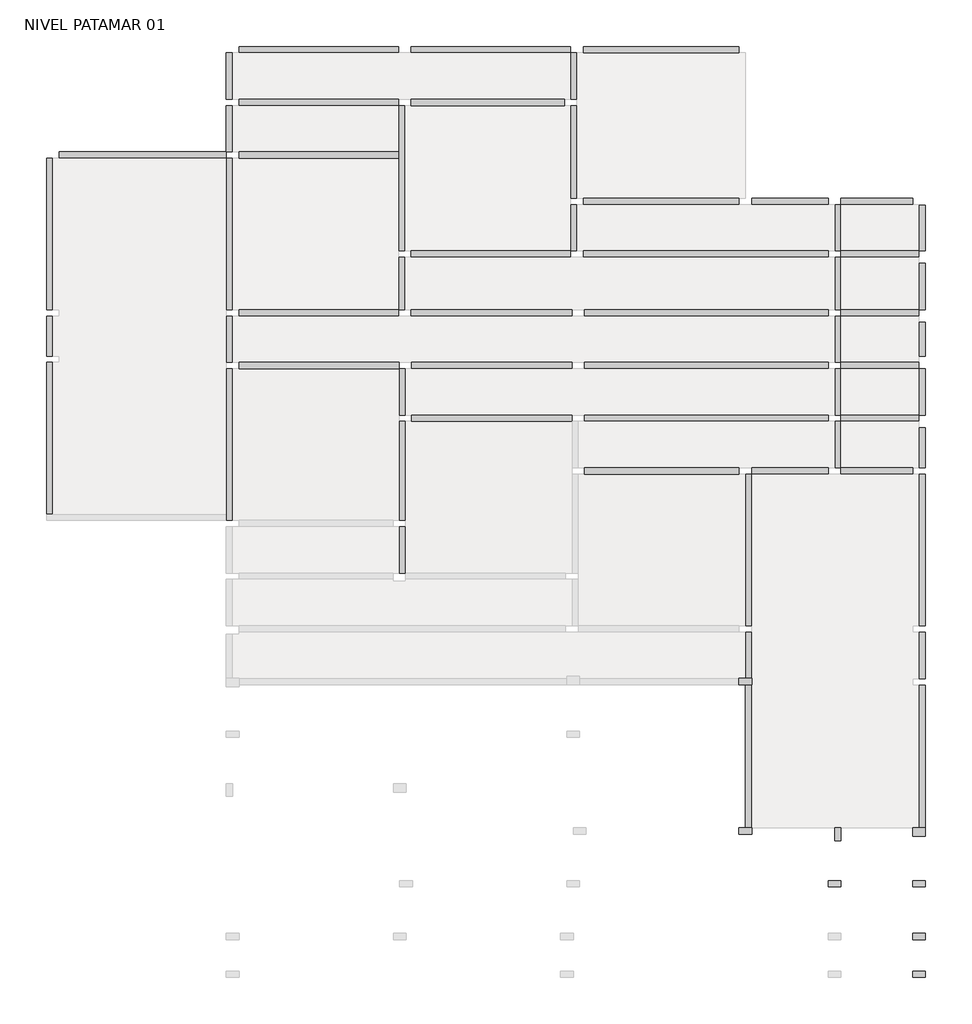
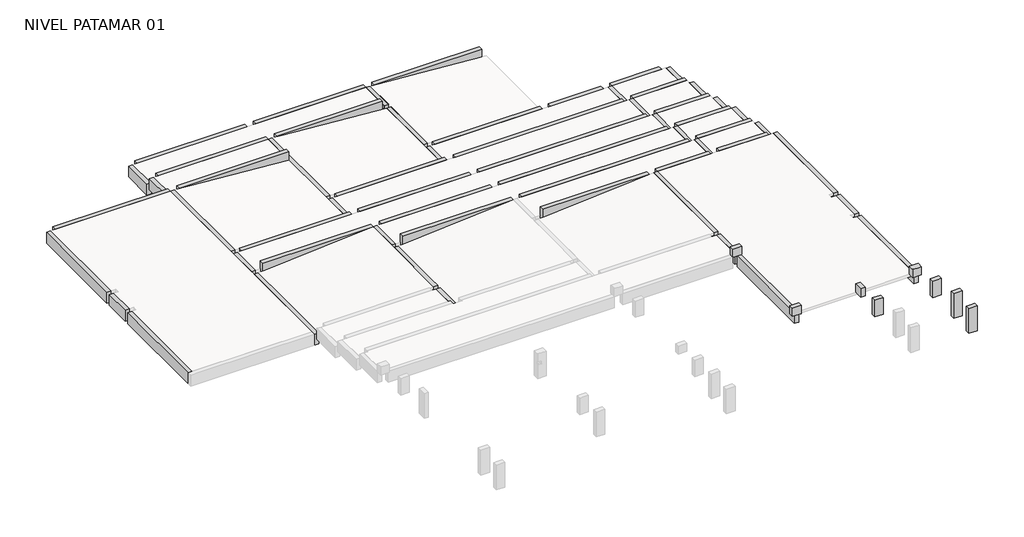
# One storey, part 2 of 2: 33 beams, 8 columns.
"""IFC4 building model written with IfcOpenShell, lengths in millimetres."""

from ifc_helpers import new_model, si_unit, frame, origin, place, context, project, spatial, polyline, outline, extrude, faceted_brep, element, save

model = new_model("IFC4")

# Units and contexts
model_context = context("Model", 3, world=origin())
ifc_project = project(units=[si_unit("LENGTHUNIT", "METRE", prefix="MILLI")], contexts=[model_context])

# Site, building, storey
site = spatial("IfcSite", under=ifc_project)
building = spatial("IfcBuilding", under=site)
storey = spatial("IfcBuildingStorey", under=building, Name="NIVEL PATAMAR 01", Elevation=2700.0)

# Beams
placement = place(None, origin())
element("IfcBeam", 1, ObjectType="TQS - Viga retangular : 15,0 x 40,0", at=placement, inside=storey, context=model_context, shape_type="Brep", body=[
    faceted_brep([(50150.0, -4080.0, 2700.0), (50150.0, -7480.0, 2700.0), (50300.0, -7480.0, 2700.0), (50300.0, -4080.0, 2700.0), (50300.0, -7480.0, 2600.0), (50300.0, -7480.0, 2300.0), (50300.0, -4080.0, 2300.0), (50150.0, -7480.0, 2300.0), (50150.0, -4080.0, 2300.0), (50150.0, -4080.0, 2599.7106811), (50150.0, -7480.0, 2599.7106811)], [[[0, 1, 2, 3]], [[3, 2, 4, 5, 6]], [[6, 5, 7, 8]], [[1, 0, 9, 8, 7, 10]], [[0, 3, 6, 8, 9]], [[1, 10, 7, 5, 4, 2]]]),
    faceted_brep([(50300.0, -3930.0, 2700.0), (50150.0, -3930.0, 2700.0), (50150.0, -3930.0, 2600.0), (50150.0, -3930.0, 2300.0), (50300.0, -3930.0, 2300.0), (50150.0, -2830.0, 2700.0), (50300.0, -2830.0, 2700.0), (50300.0, -2830.0, 2300.0), (50150.0, -2830.0, 2300.0), (50150.0, -2830.0, 2600.0)], [[[0, 1, 2, 3, 4]], [[5, 6, 7, 8, 9]], [[1, 0, 6, 5]], [[0, 4, 7, 6]], [[4, 3, 8, 7]], [[3, 2, 1, 5, 9, 8]]]),
    faceted_brep([(50150.0, -2680.0, 2700.0), (50300.0, -2680.0, 2700.0), (50300.0, 920.0, 2700.0), (50150.0, 920.0, 2700.0), (50300.0, -2680.0, 2300.0), (50300.0, 920.0, 2300.0), (50300.0, 920.0, 2600.0), (50150.0, -2680.0, 2300.0), (50150.0, 920.0, 2300.0), (50150.0, -2680.0, 2599.7148897), (50150.0, 920.0, 2599.7148897)], [[[0, 1, 2, 3]], [[1, 4, 5, 6, 2]], [[4, 7, 8, 5]], [[7, 9, 0, 3, 10, 8]], [[1, 0, 9, 7, 4]], [[3, 2, 6, 5, 8, 10]]]),
])
element("IfcBeam", 2, ObjectType="TQS - Viga retangular : 15,0 x 40,0", at=placement, inside=storey, context=model_context, shape_type="Brep", body=[
    faceted_brep([(52420.0, 1070.0, 2700.0), (52420.0, 920.0, 2700.0), (54120.0, 920.0, 2700.0), (54120.0, 1070.0, 2700.0), (52420.0, 920.0, 2300.0), (54120.0, 920.0, 2300.0), (52420.0, 1070.0, 2300.0), (54120.0, 1070.0, 2300.0), (52420.0, 1070.0, 2400.0)], [[[0, 1, 2, 3]], [[1, 4, 5, 2]], [[4, 6, 7, 5]], [[6, 8, 0, 3, 7]], [[1, 0, 8, 6, 4]], [[3, 2, 5, 7]]]),
    faceted_brep([(52120.0, 1070.0, 2700.0), (52120.0, 920.0, 2700.0), (52120.0, 920.0, 2300.0), (52120.0, 1070.0, 2300.0), (50300.0, 1070.0, 2700.0), (50300.0, 920.0, 2700.0), (50300.0, 920.0, 2600.0), (50300.0, 920.0, 2300.0), (50300.0, 1070.0, 2300.0)], [[[0, 1, 2, 3]], [[1, 0, 4, 5]], [[2, 1, 5, 6, 7]], [[3, 2, 7, 8]], [[0, 3, 8, 4]], [[5, 4, 8, 7, 6]]]),
    faceted_brep([(46330.0, 920.0, 2700.0), (46330.0, 1070.0, 2700.0), (46330.0, 1070.0, 2300.0), (46330.0, 920.0, 2300.0), (50000.0, 1070.0, 2700.0), (50000.0, 920.0, 2700.0), (50000.0, 920.0, 2300.0), (50000.0, 1070.0, 2300.0)], [[[0, 1, 2, 3]], [[4, 5, 6, 7]], [[1, 0, 5, 4]], [[0, 3, 6, 5]], [[3, 2, 7, 6]], [[2, 1, 4, 7]]]),
])
element("IfcBeam", 3, ObjectType="TQS - Viga retangular : 15,0 x 40,0", at=placement, inside=storey, context=model_context, shape_type="Brep", body=[
    faceted_brep([(54270.0, -4088.8177552, 2700.0), (54270.0, -7480.0, 2700.0), (54420.0, -7480.0, 2700.0), (54420.0, -4088.8177552, 2700.0), (54420.0, -7480.0, 2300.0), (54420.0, -4088.8177552, 2300.0), (54270.0, -7480.0, 2300.0), (54270.0, -4088.8177552, 2300.0), (54270.0, -4088.8177552, 2600.0), (54270.0, -7480.0, 2600.0)], [[[0, 1, 2, 3]], [[3, 2, 4, 5]], [[5, 4, 6, 7]], [[1, 0, 8, 7, 6, 9]], [[0, 3, 5, 7, 8]], [[1, 9, 6, 4, 2]]]),
    faceted_brep([(54420.0, -3938.8177552, 2700.0), (54270.0, -3938.8177552, 2700.0), (54270.0, -3938.8177552, 2600.0), (54270.0, -3938.8177552, 2300.0), (54420.0, -3938.8177552, 2300.0), (54270.0, -2830.0, 2700.0), (54420.0, -2830.0, 2700.0), (54420.0, -2830.0, 2300.0), (54270.0, -2830.0, 2300.0), (54270.0, -2830.0, 2600.0)], [[[0, 1, 2, 3, 4]], [[5, 6, 7, 8, 9]], [[1, 0, 6, 5]], [[0, 4, 7, 6]], [[4, 3, 8, 7]], [[3, 2, 1, 5, 9, 8]]]),
    faceted_brep([(54270.0, -2680.0, 2700.0), (54420.0, -2680.0, 2700.0), (54420.0, 920.0, 2700.0), (54270.0, 920.0, 2700.0), (54420.0, -2680.0, 2300.0), (54420.0, 920.0, 2300.0), (54270.0, -2680.0, 2300.0), (54270.0, 920.0, 2300.0), (54270.0, -2680.0, 2600.0), (54270.0, 920.0, 2600.0)], [[[0, 1, 2, 3]], [[1, 4, 5, 2]], [[4, 6, 7, 5]], [[6, 8, 0, 3, 9, 7]], [[1, 0, 8, 6, 4]], [[3, 2, 5, 7, 9]]]),
])
element("IfcBeam", 4, ObjectType="TQS - Viga retangular : 15,0 x 40,0", at=placement, inside=storey, context=model_context, shape_type="Brep", body=[
    faceted_brep([(46030.0, 2170.0, 2400.0), (46030.0, 2320.0, 2400.0), (42225.0, 2320.0, 2400.0), (42225.0, 2170.0, 2400.0), (46030.0, 2170.0, 2000.0), (46030.0, 2170.0, 2299.7127261), (42225.0, 2170.0, 2000.0), (46030.0, 2320.0, 2000.0), (42225.0, 2320.0, 2000.0)], [[[0, 1, 2, 3]], [[4, 5, 0, 3, 6]], [[7, 4, 6, 8]], [[1, 7, 8, 2]], [[1, 0, 5, 4, 7]], [[3, 2, 8, 6]]]),
    faceted_brep([(46330.0, 2170.0, 2400.0), (46330.0, 2320.0, 2400.0), (46330.0, 2320.0, 2000.0), (46330.0, 2170.0, 2000.0), (52120.0, 2170.0, 2400.0), (52120.0, 2320.0, 2400.0), (52120.0, 2170.0, 2000.0), (52120.0, 2320.0, 2000.0)], [[[0, 1, 2, 3]], [[1, 0, 4, 5]], [[0, 3, 6, 4]], [[3, 2, 7, 6]], [[2, 1, 5, 7]], [[5, 4, 6, 7]]]),
])
element("IfcBeam", 5, ObjectType="TQS - Viga retangular : 15,0 x 40,0", at=placement, inside=storey, context=model_context, shape_type="Brep", body=[
    faceted_brep([(41925.0, 2320.0, 2100.0), (42075.0, 2320.0, 2100.0), (42075.0, 3420.0, 2100.0), (41925.0, 3420.0, 2100.0), (42075.0, 2320.0, 2000.0), (42075.0, 2320.0, 1700.0), (42075.0, 3420.0, 1700.0), (42075.0, 3420.0, 2000.0), (41925.0, 2320.0, 1700.0), (41925.0, 3420.0, 1700.0), (41925.0, 3420.0, 1999.7127261)], [[[0, 1, 2, 3]], [[1, 4, 5, 6, 7, 2]], [[5, 8, 9, 6]], [[8, 0, 3, 10, 9]], [[1, 0, 8, 5, 4]], [[3, 2, 7, 6, 9, 10]]]),
    faceted_brep([(42075.0, -180.0, 2100.0), (41925.0, -180.0, 2100.0), (41925.0, -180.0, 1999.7127261), (41925.0, -180.0, 1700.0), (42075.0, -180.0, 1700.0), (41925.0, 2170.0, 2100.0), (42075.0, 2170.0, 2100.0), (42075.0, 2170.0, 1999.7127261), (42075.0, 2170.0, 1700.0), (41925.0, 2170.0, 1700.0)], [[[0, 1, 2, 3, 4]], [[5, 6, 7, 8, 9]], [[1, 0, 6, 5]], [[0, 4, 8, 7, 6]], [[4, 3, 9, 8]], [[3, 2, 1, 5, 9]]]),
    faceted_brep([(41925.0, -330.0, 2100.0), (42075.0, -330.0, 2100.0), (42075.0, -330.0, 1700.0), (41925.0, -330.0, 1700.0), (41925.0, -330.0, 2000.0), (41925.0, -1430.0, 2100.0), (42075.0, -1430.0, 2100.0), (42075.0, -1430.0, 1999.7127261), (42075.0, -1430.0, 1700.0), (41925.0, -1430.0, 1700.0), (41925.0, -1430.0, 2000.0)], [[[0, 1, 2, 3, 4]], [[0, 5, 6, 1]], [[1, 6, 7, 8, 2]], [[2, 8, 9, 3]], [[5, 0, 4, 3, 9, 10]], [[5, 10, 9, 8, 7, 6]]]),
])
element("IfcBeam", 6, ObjectType="TQS - Viga retangular : 15,0 x 40,0", at=placement, inside=storey, context=model_context, shape_type="Brep", body=[
    faceted_brep([(37820.0, 4820.0, 1800.0), (37970.0, 4820.0, 1800.0), (37970.0, 8420.0, 1800.0), (37820.0, 8420.0, 1800.0), (37970.0, 4820.0, 1699.7105377), (37970.0, 4820.0, 1400.0), (37970.0, 8420.0, 1400.0), (37970.0, 8420.0, 1699.7105377), (37820.0, 4820.0, 1400.0), (37820.0, 8420.0, 1400.0), (37820.0, 8420.0, 1700.0)], [[[0, 1, 2, 3]], [[1, 4, 5, 6, 7, 2]], [[5, 8, 9, 6]], [[8, 0, 3, 10, 9]], [[1, 0, 8, 5, 4]], [[3, 2, 7, 6, 9, 10]]]),
    faceted_brep([(37970.0, 3570.0, 1800.0), (37820.0, 3570.0, 1800.0), (37820.0, 3570.0, 1400.0), (37970.0, 3570.0, 1400.0), (37970.0, 3570.0, 1700.0), (37820.0, 4670.0, 1800.0), (37970.0, 4670.0, 1800.0), (37970.0, 4670.0, 1700.0), (37970.0, 4670.0, 1400.0), (37820.0, 4670.0, 1400.0)], [[[0, 1, 2, 3, 4]], [[5, 6, 7, 8, 9]], [[1, 0, 6, 5]], [[0, 4, 3, 8, 7, 6]], [[3, 2, 9, 8]], [[2, 1, 5, 9]]]),
    faceted_brep([(37820.0, 3420.0, 1800.0), (37970.0, 3420.0, 1800.0), (37970.0, 3420.0, 1699.7127261), (37970.0, 3420.0, 1400.0), (37820.0, 3420.0, 1400.0), (37820.0, -30.0, 1800.0), (37820.0, -180.0, 1800.0), (37970.0, -180.0, 1800.0), (37970.0, -180.0, 1699.7127261), (37970.0, -180.0, 1400.0), (37820.0, -180.0, 1400.0), (37820.0, -30.0, 1400.0)], [[[0, 1, 2, 3, 4]], [[1, 0, 5, 6, 7]], [[3, 2, 1, 7, 8, 9]], [[4, 3, 9, 10, 11]], [[0, 4, 11, 10, 6, 5]], [[7, 6, 10, 9, 8]]]),
])
element("IfcBeam", 7, ObjectType="TQS - Viga retangular : 15,0 x 40,0", at=placement, inside=storey, context=model_context, shape_type="Brep", body=[
    faceted_brep([(33700.0, 8420.0, 1800.0), (33550.0, 8420.0, 1800.0), (33550.0, 4820.0, 1800.0), (33700.0, 4820.0, 1800.0), (33700.0, 8420.0, 1400.0), (33700.0, 8420.0, 1700.0), (33700.0, 4820.0, 1700.0), (33700.0, 4820.0, 1400.0), (33550.0, 8420.0, 1400.0), (33550.0, 4820.0, 1400.0)], [[[0, 1, 2, 3]], [[4, 5, 0, 3, 6, 7]], [[8, 4, 7, 9]], [[1, 8, 9, 2]], [[1, 0, 5, 4, 8]], [[3, 2, 9, 7, 6]]]),
    faceted_brep([(33550.0, 4670.0, 1800.0), (33700.0, 4670.0, 1800.0), (33700.0, 4670.0, 1700.0), (33700.0, 4670.0, 1400.0), (33550.0, 4670.0, 1400.0), (33550.0, 3720.0, 1800.0), (33700.0, 3720.0, 1800.0), (33700.0, 3720.0, 1700.0), (33700.0, 3720.0, 1400.0), (33550.0, 3720.0, 1400.0)], [[[0, 1, 2, 3, 4]], [[1, 0, 5, 6]], [[3, 2, 1, 6, 7, 8]], [[4, 3, 8, 9]], [[0, 4, 9, 5]], [[6, 5, 9, 8, 7]]]),
    faceted_brep([(33550.0, 3570.0, 1800.0), (33700.0, 3570.0, 1800.0), (33700.0, 3570.0, 1700.0), (33700.0, 3570.0, 1400.0), (33550.0, 3570.0, 1400.0), (33550.0, -30.0, 1800.0), (33700.0, -30.0, 1800.0), (33700.0, -30.0, 1700.0), (33700.0, -30.0, 1400.0), (33550.0, -30.0, 1400.0)], [[[0, 1, 2, 3, 4]], [[1, 0, 5, 6]], [[3, 2, 1, 6, 7, 8]], [[4, 3, 8, 9]], [[0, 4, 9, 5]], [[6, 5, 9, 8, 7]]]),
])
element("IfcBeam", 8, ObjectType="TQS - Viga retangular : 15,0 x 40,0", at=placement, inside=storey, context=model_context, shape_type="Brep", body=[
    faceted_brep([(41910.0, 8570.0, 1800.0), (41910.0, 8420.0, 1800.0), (41910.0, 8420.0, 1500.0), (41910.0, 8420.0, 1400.0), (41910.0, 8570.0, 1400.0), (41910.0, 8570.0, 1500.0), (38120.0, 8570.0, 1800.0), (38120.0, 8420.0, 1800.0), (38120.0, 8420.0, 1400.0), (38120.0, 8570.0, 1400.0)], [[[0, 1, 2, 3, 4, 5]], [[1, 0, 6, 7]], [[3, 2, 1, 7, 8]], [[4, 3, 8, 9]], [[0, 5, 4, 9, 6]], [[7, 6, 9, 8]]]),
    faceted_brep([(37820.0, 8570.0, 1800.0), (37820.0, 8420.0, 1800.0), (37820.0, 8420.0, 1700.0), (37820.0, 8420.0, 1400.0), (37820.0, 8570.0, 1400.0), (33850.0, 8570.0, 1800.0), (33850.0, 8420.0, 1800.0), (33850.0, 8420.0, 1400.0), (33850.0, 8570.0, 1400.0)], [[[0, 1, 2, 3, 4]], [[1, 0, 5, 6]], [[3, 2, 1, 6, 7]], [[4, 3, 7, 8]], [[0, 4, 8, 5]], [[6, 5, 8, 7]]]),
])
element("IfcBeam", 9, ObjectType="TQS - Viga retangular : 15,0 x 40,0", at=placement, inside=storey, context=model_context, shape_type="Brep", body=[
    faceted_brep([(41925.0, 3420.0, 2100.0), (41925.0, 3570.0, 2100.0), (38120.0, 3570.0, 2100.0), (38120.0, 3420.0, 2100.0), (41925.0, 3570.0, 1700.0), (38120.0, 3570.0, 1700.0), (41925.0, 3420.0, 1700.0), (38120.0, 3420.0, 1700.0), (41925.0, 3420.0, 1999.7127261)], [[[0, 1, 2, 3]], [[1, 4, 5, 2]], [[4, 6, 7, 5]], [[6, 8, 0, 3, 7]], [[1, 0, 8, 6, 4]], [[3, 2, 5, 7]]]),
    faceted_brep([(42225.0, 3420.0, 2100.0), (42225.0, 3570.0, 2100.0), (42225.0, 3570.0, 1700.0), (42225.0, 3420.0, 1700.0), (46030.0, 3420.0, 2100.0), (46030.0, 3570.0, 2100.0), (46030.0, 3570.0, 1700.0), (46030.0, 3420.0, 1700.0)], [[[0, 1, 2, 3]], [[1, 0, 4, 5]], [[2, 1, 5, 6]], [[3, 2, 6, 7]], [[0, 3, 7, 4]], [[5, 4, 7, 6]]]),
    faceted_brep([(52120.0, 3570.0, 2100.0), (52120.0, 3420.0, 2100.0), (52120.0, 3420.0, 1700.0), (52120.0, 3570.0, 1700.0), (46330.0, 3420.0, 2100.0), (46330.0, 3570.0, 2100.0), (46330.0, 3570.0, 1700.0), (46330.0, 3420.0, 1700.0)], [[[0, 1, 2, 3]], [[4, 5, 6, 7]], [[1, 0, 5, 4]], [[0, 3, 6, 5]], [[3, 2, 7, 6]], [[2, 1, 4, 7]]]),
])
element("IfcBeam", 10, ObjectType="TQS - Viga retangular : 15,0 x 40,0", at=placement, inside=storey, context=model_context, shape_type="Brep", body=[
    faceted_brep([(38120.0, 4820.0, 1800.0), (38120.0, 4670.0, 1800.0), (41910.0, 4670.0, 1800.0), (41910.0, 4820.0, 1800.0), (38120.0, 4670.0, 1400.0), (41910.0, 4670.0, 1400.0), (38120.0, 4820.0, 1400.0), (41910.0, 4820.0, 1400.0), (41910.0, 4820.0, 1500.0)], [[[0, 1, 2, 3]], [[1, 4, 5, 2]], [[4, 6, 7, 5]], [[6, 0, 3, 8, 7]], [[1, 0, 6, 4]], [[3, 2, 5, 7, 8]]]),
    faceted_brep([(42210.0, 4670.0, 1800.0), (42210.0, 4820.0, 1800.0), (42210.0, 4820.0, 1400.0), (42210.0, 4670.0, 1400.0), (46030.0, 4820.0, 1800.0), (46030.0, 4670.0, 1800.0), (46030.0, 4670.0, 1400.0), (46030.0, 4820.0, 1400.0)], [[[0, 1, 2, 3]], [[4, 5, 6, 7]], [[1, 0, 5, 4]], [[0, 3, 6, 5]], [[3, 2, 7, 6]], [[2, 1, 4, 7]]]),
    faceted_brep([(46330.0, 4820.0, 1800.0), (46330.0, 4670.0, 1800.0), (52120.0, 4670.0, 1800.0), (52120.0, 4820.0, 1800.0), (46330.0, 4670.0, 1400.0), (52120.0, 4670.0, 1400.0), (46330.0, 4820.0, 1400.0), (52120.0, 4820.0, 1400.0)], [[[0, 1, 2, 3]], [[1, 4, 5, 2]], [[4, 6, 7, 5]], [[6, 0, 3, 7]], [[1, 0, 6, 4]], [[3, 2, 5, 7]]]),
])
element("IfcBeam", 11, ObjectType="TQS - Viga retangular : 15,0 x 40,0", at=placement, inside=storey, context=model_context, shape_type="Brep", body=[
    faceted_brep([(52420.0, 4670.0, 1800.0), (52270.0, 4670.0, 1800.0), (52270.0, 3570.0, 1800.0), (52420.0, 3570.0, 1800.0), (52420.0, 4670.0, 1400.0), (52420.0, 4670.0, 1700.0), (52420.0, 3570.0, 1700.0), (52420.0, 3570.0, 1400.0), (52270.0, 4670.0, 1400.0), (52270.0, 3570.0, 1400.0), (52270.0, 4670.0, 1700.0), (52270.0, 3570.0, 1700.0)], [[[0, 1, 2, 3]], [[4, 5, 0, 3, 6, 7]], [[8, 4, 7, 9]], [[1, 10, 8, 9, 11, 2]], [[2, 11, 9, 7, 6, 3]], [[1, 0, 5, 4, 8, 10]]]),
])
element("IfcBeam", 12, ObjectType="TQS - Viga retangular : 15,0 x 40,0", at=placement, inside=storey, context=model_context, shape_type="Brep", body=[
    faceted_brep([(41910.0, 6220.0, 1500.0), (42060.0, 6220.0, 1500.0), (42060.0, 9670.0, 1500.0), (41910.0, 9670.0, 1500.0), (41910.0, 8570.0, 1500.0), (42060.0, 6220.0, 1399.7105377), (42060.0, 6220.0, 1100.0), (42060.0, 9670.0, 1100.0), (42060.0, 9670.0, 1399.7105377), (41910.0, 6220.0, 1100.0), (41910.0, 9670.0, 1100.0), (41910.0, 9670.0, 1400.0)], [[[0, 1, 2, 3, 4]], [[1, 5, 6, 7, 8, 2]], [[6, 9, 10, 7]], [[9, 0, 4, 3, 11, 10]], [[1, 0, 9, 6, 5]], [[3, 2, 8, 7, 10, 11]]]),
    faceted_brep([(41910.0, 6070.0, 1500.0), (42060.0, 6070.0, 1500.0), (42060.0, 6070.0, 1400.0), (42060.0, 6070.0, 1100.0), (41910.0, 6070.0, 1100.0), (41910.0, 4820.0, 1500.0), (42060.0, 4820.0, 1500.0), (42060.0, 4820.0, 1400.0), (42060.0, 4820.0, 1100.0), (41910.0, 4820.0, 1100.0), (41910.0, 4820.0, 1399.7105377)], [[[0, 1, 2, 3, 4]], [[0, 5, 6, 1]], [[1, 6, 7, 8, 3, 2]], [[3, 8, 9, 4]], [[5, 0, 4, 9, 10]], [[5, 10, 9, 8, 7, 6]]]),
])
element("IfcBeam", 13, ObjectType="TQS - Viga retangular : 15,0 x 40,0", at=placement, inside=storey, context=model_context, shape_type="Brep", body=[
    faceted_brep([(42210.0, 6220.0, 1500.0), (42210.0, 6070.0, 1500.0), (46000.0, 6070.0, 1500.0), (46000.0, 6220.0, 1500.0), (42210.0, 6070.0, 1100.0), (46000.0, 6070.0, 1100.0), (42210.0, 6220.0, 1100.0), (46000.0, 6220.0, 1100.0), (46000.0, 6220.0, 1200.0)], [[[0, 1, 2, 3]], [[1, 4, 5, 2]], [[4, 6, 7, 5]], [[6, 0, 3, 8, 7]], [[1, 0, 6, 4]], [[2, 5, 7, 8, 3]]]),
    faceted_brep([(46300.0, 6070.0, 1500.0), (46300.0, 6220.0, 1500.0), (46300.0, 6220.0, 1200.0), (46300.0, 6070.0, 1200.0), (52120.0, 6220.0, 1500.0), (52120.0, 6070.0, 1500.0), (52120.0, 6070.0, 1200.0), (52120.0, 6220.0, 1200.0)], [[[0, 1, 2, 3]], [[4, 5, 6, 7]], [[3, 2, 7, 6]], [[1, 0, 5, 4]], [[5, 0, 3, 6]], [[1, 4, 7, 2]]]),
])
element("IfcBeam", 14, ObjectType="TQS - Viga retangular : 15,0 x 40,0", at=placement, inside=storey, context=model_context, shape_type="Brep", body=[
    faceted_brep([(42210.0, 9820.0, 1500.0), (42210.0, 9670.0, 1500.0), (45850.0, 9670.0, 1500.0), (45850.0, 9820.0, 1500.0), (42210.0, 9670.0, 1100.0), (45850.0, 9670.0, 1100.0), (42210.0, 9820.0, 1100.0), (45850.0, 9820.0, 1100.0)], [[[0, 1, 2, 3]], [[1, 4, 5, 2]], [[4, 6, 7, 5]], [[6, 0, 3, 7]], [[1, 0, 6, 4]], [[3, 2, 5, 7]]]),
    faceted_brep([(38120.0, 9670.0, 1500.0), (38120.0, 9820.0, 1500.0), (38120.0, 9820.0, 1100.0), (38120.0, 9670.0, 1100.0), (41910.0, 9820.0, 1500.0), (41910.0, 9670.0, 1500.0), (41910.0, 9670.0, 1400.0), (41910.0, 9670.0, 1100.0), (41910.0, 9820.0, 1100.0)], [[[0, 1, 2, 3]], [[4, 5, 6, 7, 8]], [[1, 0, 5, 4]], [[0, 3, 7, 6, 5]], [[3, 2, 8, 7]], [[2, 1, 4, 8]]]),
])
element("IfcBeam", 15, ObjectType="TQS - Viga retangular : 15,0 x 40,0", at=placement, inside=storey, context=model_context, shape_type="Brep", body=[
    faceted_brep([(46000.0, 9820.0, 1200.0), (46150.0, 9820.0, 1200.0), (46150.0, 10920.0, 1200.0), (46000.0, 10920.0, 1200.0), (46150.0, 9820.0, 900.0), (46150.0, 9820.0, 800.0), (46150.0, 10920.0, 800.0), (46150.0, 10920.0, 1099.7191443), (46000.0, 9820.0, 800.0), (46000.0, 10920.0, 800.0), (46000.0, 9820.0, 1100.0), (46000.0, 10920.0, 1100.0), (46000.0, 10920.0, 900.0)], [[[0, 1, 2, 3]], [[1, 4, 5, 6, 7, 2]], [[5, 8, 9, 6]], [[8, 10, 0, 3, 11, 12, 9]], [[8, 5, 4, 1, 0, 10]], [[6, 9, 12, 11, 3, 2, 7]]]),
    faceted_brep([(46000.0, 6220.0, 800.0), (46150.0, 6220.0, 800.0), (46150.0, 6220.0, 1100.0), (46150.0, 6220.0, 1200.0), (46000.0, 6220.0, 1200.0), (46000.0, 6220.0, 1099.7105377), (46000.0, 6220.0, 900.0), (46150.0, 7320.0, 800.0), (46000.0, 7320.0, 800.0), (46000.0, 7320.0, 900.0), (46000.0, 7320.0, 1200.0), (46150.0, 7320.0, 1200.0), (46150.0, 7320.0, 1100.0)], [[[0, 1, 2, 3, 4, 5, 6]], [[7, 8, 9, 10, 11, 12]], [[1, 0, 8, 7]], [[4, 3, 11, 10]], [[3, 2, 1, 7, 12, 11]], [[0, 6, 5, 4, 10, 9, 8]]]),
    faceted_brep([(46150.0, 9670.0, 800.0), (46000.0, 9670.0, 800.0), (46000.0, 9670.0, 1099.7105377), (46000.0, 9670.0, 1200.0), (46150.0, 9670.0, 1200.0), (46150.0, 9670.0, 900.0), (46150.0, 7470.0, 800.0), (46000.0, 7470.0, 800.0), (46000.0, 7470.0, 1200.0), (46150.0, 7470.0, 1200.0), (46150.0, 7470.0, 1099.7191443), (46000.0, 7470.0, 900.0)], [[[0, 1, 2, 3, 4, 5]], [[1, 0, 6, 7]], [[4, 3, 8, 9]], [[0, 5, 4, 9, 10, 6]], [[3, 2, 1, 7, 11, 8]], [[7, 6, 10, 9, 8, 11]]]),
])
element("IfcBeam", 16, ObjectType="TQS - Viga retangular : 15,0 x 40,0", at=placement, inside=storey, context=model_context, shape_type="Brep", body=[
    faceted_brep([(38120.0, 11070.0, 1200.0), (38120.0, 10920.0, 1200.0), (41910.0, 10920.0, 1200.0), (41910.0, 11070.0, 1200.0), (38120.0, 10920.0, 900.0), (41910.0, 10920.0, 900.0), (41910.0, 11070.0, 900.0), (38120.0, 11070.0, 900.0)], [[[0, 1, 2, 3]], [[2, 1, 4, 5]], [[0, 3, 6, 7]], [[1, 0, 7, 4]], [[3, 2, 5, 6]], [[5, 4, 7, 6]]]),
    faceted_brep([(50000.0, 11070.0, 1200.0), (50000.0, 10920.0, 1200.0), (50000.0, 10920.0, 911.2499312), (50000.0, 10920.0, 900.0), (50000.0, 11070.0, 900.0), (46300.0, 10920.0, 1200.0), (46300.0, 11070.0, 1200.0), (46300.0, 11070.0, 900.0), (46300.0, 10920.0, 900.0)], [[[0, 1, 2, 3, 4]], [[5, 6, 7, 8]], [[1, 0, 6, 5]], [[1, 5, 8, 3, 2]], [[6, 0, 4, 7]], [[4, 3, 8, 7]]]),
    faceted_brep([(46000.0, 11070.0, 1200.0), (46000.0, 10920.0, 1200.0), (46000.0, 10920.0, 1100.0), (46000.0, 10920.0, 900.0), (46000.0, 11070.0, 900.0), (42210.0, 10920.0, 1200.0), (42210.0, 11070.0, 1200.0), (42210.0, 11070.0, 900.0), (42210.0, 10920.0, 900.0)], [[[0, 1, 2, 3, 4]], [[5, 6, 7, 8]], [[4, 3, 8, 7]], [[1, 0, 6, 5]], [[6, 0, 4, 7]], [[1, 5, 8, 3, 2]]]),
])
element("IfcBeam", 17, ObjectType="TQS - Viga retangular : 15,0 x 40,0", at=placement, inside=storey, context=model_context, shape_type="Brep", body=[
    faceted_brep([(46300.0, 7470.0, 1200.0), (46300.0, 7320.0, 1200.0), (50000.0, 7320.0, 1200.0), (50000.0, 7470.0, 1200.0), (46300.0, 7320.0, 900.0), (46300.0, 7320.0, 800.0), (50000.0, 7320.0, 800.0), (50000.0, 7320.0, 900.0), (46300.0, 7470.0, 800.0), (50000.0, 7470.0, 800.0), (46300.0, 7470.0, 900.0), (50000.0, 7470.0, 900.0)], [[[0, 1, 2, 3]], [[1, 4, 5, 6, 7, 2]], [[5, 8, 9, 6]], [[8, 10, 0, 3, 11, 9]], [[8, 5, 4, 1, 0, 10]], [[6, 9, 11, 3, 2, 7]]]),
    faceted_brep([(50300.0, 7320.0, 1200.0), (50300.0, 7470.0, 1200.0), (50300.0, 7470.0, 900.0), (50300.0, 7320.0, 900.0), (52120.0, 7320.0, 1200.0), (52120.0, 7470.0, 1200.0), (52120.0, 7320.0, 900.0), (52120.0, 7470.0, 900.0)], [[[0, 1, 2, 3]], [[1, 0, 4, 5]], [[4, 0, 3, 6]], [[1, 5, 7, 2]], [[5, 4, 6, 7]], [[3, 2, 7, 6]]]),
])
element("IfcBeam", 18, ObjectType="TQS - Viga retangular : 15,0 x 40,0", at=placement, inside=storey, context=model_context, shape_type="Brep", body=[
    faceted_brep([(52420.0, 2170.0, 2400.0), (52270.0, 2170.0, 2400.0), (52270.0, 1070.0, 2400.0), (52420.0, 1070.0, 2400.0), (52420.0, 2170.0, 2000.0), (52420.0, 2170.0, 2300.0), (52420.0, 1070.0, 2300.0), (52420.0, 1070.0, 2000.0), (52270.0, 2170.0, 2000.0), (52270.0, 1070.0, 2000.0), (52270.0, 2170.0, 2300.0), (52270.0, 1070.0, 2300.0)], [[[0, 1, 2, 3]], [[4, 5, 0, 3, 6, 7]], [[8, 4, 7, 9]], [[1, 10, 8, 9, 11, 2]], [[2, 11, 9, 7, 6, 3]], [[1, 0, 5, 4, 8, 10]]]),
])
element("IfcBeam", 19, ObjectType="TQS - Viga retangular : 15,0 x 40,0", at=placement, inside=storey, context=model_context, shape_type="Brep", body=[
    faceted_brep([(52270.0, 2320.0, 2100.0), (52420.0, 2320.0, 2100.0), (52420.0, 3420.0, 2100.0), (52270.0, 3420.0, 2100.0), (52270.0, 2320.0, 1700.0), (52270.0, 2320.0, 2000.0), (52270.0, 3420.0, 2000.0), (52270.0, 3420.0, 1700.0), (52420.0, 2320.0, 1700.0), (52420.0, 3420.0, 1700.0), (52420.0, 2320.0, 2000.0), (52420.0, 3420.0, 2000.0)], [[[0, 1, 2, 3]], [[4, 5, 0, 3, 6, 7]], [[8, 4, 7, 9]], [[1, 10, 8, 9, 11, 2]], [[1, 0, 5, 4, 8, 10]], [[2, 11, 9, 7, 6, 3]]]),
])
element("IfcBeam", 20, ObjectType="TQS - Viga retangular : 15,0 x 40,0", at=placement, inside=storey, context=model_context, shape_type="Brep", body=[
    faceted_brep([(52270.0, 4820.0, 1500.0), (52420.0, 4820.0, 1500.0), (52420.0, 6070.0, 1500.0), (52270.0, 6070.0, 1500.0), (52270.0, 4820.0, 1100.0), (52270.0, 4820.0, 1400.0), (52270.0, 6070.0, 1400.0), (52270.0, 6070.0, 1100.0), (52420.0, 4820.0, 1100.0), (52420.0, 6070.0, 1100.0), (52420.0, 4820.0, 1400.0), (52420.0, 6070.0, 1400.0)], [[[0, 1, 2, 3]], [[4, 5, 0, 3, 6, 7]], [[8, 4, 7, 9]], [[1, 10, 8, 9, 11, 2]], [[1, 0, 5, 4, 8, 10]], [[2, 11, 9, 7, 6, 3]]]),
])
element("IfcBeam", 21, ObjectType="TQS - Viga retangular : 15,0 x 40,0", at=placement, inside=storey, context=model_context, shape_type="Brep", body=[
    faceted_brep([(52270.0, 6220.0, 1200.0), (52420.0, 6220.0, 1200.0), (52420.0, 7320.0, 1200.0), (52270.0, 7320.0, 1200.0), (52270.0, 6220.0, 800.0), (52270.0, 6220.0, 1100.0), (52270.0, 7320.0, 1100.0), (52270.0, 7320.0, 800.0), (52420.0, 6220.0, 800.0), (52420.0, 7320.0, 800.0), (52420.0, 6220.0, 900.0), (52420.0, 7320.0, 900.0), (52420.0, 7320.0, 1100.0)], [[[0, 1, 2, 3]], [[4, 5, 0, 3, 6, 7]], [[8, 4, 7, 9]], [[1, 10, 8, 9, 11, 12, 2]], [[4, 8, 10, 1, 0, 5]], [[3, 2, 12, 11, 9, 7, 6]]]),
])
element("IfcBeam", 22, ObjectType="TQS - Viga retangular : 15,0 x 40,0", at=placement, inside=storey, context=model_context, shape_type="Brep", body=[
    faceted_brep([(37970.0, 9670.0, 1500.0), (37820.0, 9670.0, 1500.0), (37820.0, 8570.0, 1500.0), (37970.0, 8570.0, 1500.0), (37970.0, 9670.0, 1100.0), (37970.0, 9670.0, 1400.0), (37970.0, 8570.0, 1400.0), (37970.0, 8570.0, 1100.0), (37820.0, 9670.0, 1100.0), (37820.0, 8570.0, 1100.0)], [[[0, 1, 2, 3]], [[4, 5, 0, 3, 6, 7]], [[8, 4, 7, 9]], [[1, 8, 9, 2]], [[2, 9, 7, 6, 3]], [[1, 0, 5, 4, 8]]]),
])
element("IfcBeam", 23, ObjectType="TQS - Viga retangular : 15,0 x 40,0", at=placement, inside=storey, context=model_context, shape_type="Brep", body=[
    faceted_brep([(37820.0, 9820.0, 1200.0), (37970.0, 9820.0, 1200.0), (37970.0, 10920.0, 1200.0), (37820.0, 10920.0, 1200.0), (37970.0, 9820.0, 1100.0), (37970.0, 9820.0, 800.0), (37970.0, 10920.0, 800.0), (37970.0, 10920.0, 1100.0), (37820.0, 9820.0, 800.0), (37820.0, 10920.0, 800.0), (37820.0, 9820.0, 900.0), (37820.0, 10920.0, 900.0)], [[[0, 1, 2, 3]], [[1, 4, 5, 6, 7, 2]], [[5, 8, 9, 6]], [[8, 10, 0, 3, 11, 9]], [[8, 5, 4, 1, 0, 10]], [[6, 9, 11, 3, 2, 7]]]),
])
element("IfcBeam", 24, ObjectType="TQS - Viga retangular : 15,0 x 40,0", at=placement, inside=storey, context=model_context, shape_type="Brep", body=[
    faceted_brep([(54420.0, 2020.0, 2400.0), (54270.0, 2020.0, 2400.0), (54270.0, 1070.0, 2400.0), (54420.0, 1070.0, 2400.0), (54420.0, 2020.0, 2000.0), (54420.0, 1070.0, 2000.0), (54270.0, 2020.0, 2000.0), (54270.0, 1070.0, 2000.0), (54270.0, 1070.0, 2300.0)], [[[0, 1, 2, 3]], [[4, 0, 3, 5]], [[6, 4, 5, 7]], [[1, 6, 7, 8, 2]], [[2, 8, 7, 5, 3]], [[1, 0, 4, 6]]]),
])
element("IfcBeam", 25, ObjectType="TQS - Viga retangular : 15,0 x 40,0", at=placement, inside=storey, context=model_context, shape_type="Brep", body=[
    faceted_brep([(54420.0, 3420.0, 2100.0), (54270.0, 3420.0, 2100.0), (54270.0, 2320.0, 2100.0), (54420.0, 2320.0, 2100.0), (54420.0, 3420.0, 1700.0), (54420.0, 2320.0, 1700.0), (54270.0, 3420.0, 1700.0), (54270.0, 2320.0, 1700.0), (54270.0, 3420.0, 2000.0), (54270.0, 2320.0, 2000.0)], [[[0, 1, 2, 3]], [[4, 0, 3, 5]], [[6, 4, 5, 7]], [[1, 8, 6, 7, 9, 2]], [[2, 9, 7, 5, 3]], [[1, 0, 4, 6, 8]]]),
])
element("IfcBeam", 26, ObjectType="TQS - Viga retangular : 15,0 x 40,0", at=placement, inside=storey, context=model_context, shape_type="Brep", body=[
    faceted_brep([(54270.0, 3420.0, 2100.0), (54270.0, 3570.0, 2100.0), (52420.0, 3570.0, 2100.0), (52420.0, 3420.0, 2100.0), (54270.0, 3420.0, 1700.0), (54270.0, 3420.0, 2000.0), (52420.0, 3420.0, 2000.0), (52420.0, 3420.0, 1700.0), (54270.0, 3570.0, 1700.0), (52420.0, 3570.0, 1700.0), (54270.0, 3570.0, 1800.0), (52420.0, 3570.0, 1800.0)], [[[0, 1, 2, 3]], [[4, 5, 0, 3, 6, 7]], [[8, 4, 7, 9]], [[1, 10, 8, 9, 11, 2]], [[2, 11, 9, 7, 6, 3]], [[1, 0, 5, 4, 8, 10]]]),
])
element("IfcBeam", 27, ObjectType="TQS - Viga retangular : 15,0 x 40,0", at=placement, inside=storey, context=model_context, shape_type="Brep", body=[
    faceted_brep([(54270.0, 4670.0, 1800.0), (54270.0, 4820.0, 1800.0), (52420.0, 4820.0, 1800.0), (52420.0, 4670.0, 1800.0), (54270.0, 4670.0, 1400.0), (54270.0, 4670.0, 1700.0), (52420.0, 4670.0, 1700.0), (52420.0, 4670.0, 1400.0), (54270.0, 4820.0, 1400.0), (52420.0, 4820.0, 1400.0), (54270.0, 4820.0, 1500.0), (52420.0, 4820.0, 1500.0)], [[[0, 1, 2, 3]], [[4, 5, 0, 3, 6, 7]], [[8, 4, 7, 9]], [[1, 10, 8, 9, 11, 2]], [[2, 11, 9, 7, 6, 3]], [[1, 0, 5, 4, 8, 10]]]),
])
element("IfcBeam", 28, ObjectType="TQS - Viga retangular : 15,0 x 40,0", at=placement, inside=storey, context=model_context, shape_type="SweptSolid", body=[
    extrude(outline(polyline([(54270.0, 4520.0), (54420.0, 4520.0), (54420.0, 3720.0), (54270.0, 3720.0), (54270.0, 4520.0)])), frame((0.0, 0.0, 1400.0), z_axis=(0.0, 0.0, 1.0), x_axis=(1.0, 0.0, 0.0)), (0.0, 0.0, 1.0), 400.0),
])
element("IfcBeam", 29, ObjectType="TQS - Viga retangular : 15,0 x 40,0", at=placement, inside=storey, context=model_context, shape_type="Brep", body=[
    faceted_brep([(54270.0, 6220.0, 1500.0), (52420.0, 6220.0, 1500.0), (52420.0, 6070.0, 1500.0), (54270.0, 6070.0, 1500.0), (52420.0, 6070.0, 1400.0), (52420.0, 6070.0, 1200.0), (54270.0, 6070.0, 1200.0), (54270.0, 6070.0, 1400.0), (54270.0, 6220.0, 1200.0), (52420.0, 6220.0, 1200.0)], [[[0, 1, 2, 3]], [[3, 2, 4, 5, 6, 7]], [[1, 0, 8, 9]], [[2, 1, 9, 5, 4]], [[0, 3, 7, 6, 8]], [[6, 5, 9, 8]]]),
])
element("IfcBeam", 30, ObjectType="TQS - Viga retangular : 15,0 x 40,0", at=placement, inside=storey, context=model_context, shape_type="Brep", body=[
    faceted_brep([(54420.0, 5920.0, 1500.0), (54270.0, 5920.0, 1500.0), (54270.0, 4820.0, 1500.0), (54420.0, 4820.0, 1500.0), (54420.0, 5920.0, 1100.0), (54420.0, 4820.0, 1100.0), (54270.0, 5920.0, 1100.0), (54270.0, 4820.0, 1100.0), (54270.0, 4820.0, 1400.0)], [[[0, 1, 2, 3]], [[4, 0, 3, 5]], [[6, 4, 5, 7]], [[1, 6, 7, 8, 2]], [[2, 8, 7, 5, 3]], [[1, 0, 4, 6]]]),
])
element("IfcBeam", 31, ObjectType="TQS - Viga retangular : 15,0 x 40,0", at=placement, inside=storey, context=model_context, shape_type="Brep", body=[
    faceted_brep([(52420.0, 7470.0, 1200.0), (52420.0, 7320.0, 1200.0), (54120.0, 7320.0, 1200.0), (54120.0, 7470.0, 1200.0), (52420.0, 7320.0, 1100.0), (52420.0, 7320.0, 900.0), (54120.0, 7320.0, 900.0), (52420.0, 7470.0, 900.0), (54120.0, 7470.0, 900.0)], [[[0, 1, 2, 3]], [[1, 4, 5, 6, 2]], [[1, 0, 7, 5, 4]], [[3, 2, 6, 8]], [[7, 8, 6, 5]], [[7, 0, 3, 8]]]),
])
element("IfcBeam", 32, ObjectType="TQS - Viga retangular : 15,0 x 40,0", at=placement, inside=storey, context=model_context, shape_type="Brep", body=[
    faceted_brep([(54270.0, 7307.2999994, 1200.0), (54420.0, 7307.2999994, 1200.0), (54420.0, 7307.2999994, 800.0), (54270.0, 7307.2999994, 800.0), (54270.0, 6220.0, 1200.0), (54420.0, 6220.0, 1200.0), (54420.0, 6220.0, 900.0), (54420.0, 6220.0, 800.0), (54270.0, 6220.0, 800.0), (54270.0, 6220.0, 900.0)], [[[0, 1, 2, 3]], [[1, 0, 4, 5]], [[2, 1, 5, 6, 7]], [[3, 2, 7, 8]], [[0, 3, 8, 9, 4]], [[5, 4, 9, 8, 7, 6]]]),
])
element("IfcBeam", 33, ObjectType="TQS - Viga retangular : 15,0 x 40,0", at=placement, inside=storey, context=model_context, shape_type="Brep", body=[
    faceted_brep([(54270.0, 2170.0, 2400.0), (54270.0, 2320.0, 2400.0), (52420.0, 2320.0, 2400.0), (52420.0, 2170.0, 2400.0), (54270.0, 2170.0, 2000.0), (54270.0, 2170.0, 2300.0), (52420.0, 2170.0, 2300.0), (52420.0, 2170.0, 2000.0), (54270.0, 2320.0, 2000.0), (52420.0, 2320.0, 2000.0), (54270.0, 2320.0, 2100.0), (52420.0, 2320.0, 2100.0)], [[[0, 1, 2, 3]], [[4, 5, 0, 3, 6, 7]], [[8, 4, 7, 9]], [[1, 10, 8, 9, 11, 2]], [[2, 11, 9, 7, 6, 3]], [[1, 0, 5, 4, 8, 10]]]),
])

# Columns
element("IfcColumn", 34, ObjectType="TQS - Pilar retangular : 15,0x30,0", at=placement, inside=storey, context=model_context, shape_type="SweptSolid", body=[
    extrude(outline(polyline([(50300.0, -4080.0), (50000.0, -4080.0), (50000.0, -3930.0), (50300.0, -3930.0), (50300.0, -4080.0)])), frame((0.0, 0.0, 2700.0), z_axis=(0.0, 0.0, 1.0), x_axis=(1.0, 0.0, 0.0)), (0.0, 0.0, 1.0), 300.0),
])
element("IfcColumn", 35, ObjectType="TQS - Pilar retangular : 15,0x30,0", at=placement, inside=storey, context=model_context, shape_type="SweptSolid", body=[
    extrude(outline(polyline([(50300.0, -7630.0), (50000.0, -7630.0), (50000.0, -7480.0), (50300.0, -7480.0), (50300.0, -7630.0)])), frame((0.0, 0.0, 2700.0), z_axis=(0.0, 0.0, 1.0), x_axis=(1.0, 0.0, 0.0)), (0.0, 0.0, 1.0), 300.0),
])
element("IfcColumn", 36, ObjectType="TQS - Pilar retangular : 15,0x30,0", at=placement, inside=storey, context=model_context, shape_type="Brep", body=[
    faceted_brep([(52270.0, -7780.0, 2700.0), (52270.0, -7480.0, 2700.0), (52420.0, -7480.0, 2700.0), (52420.0, -7780.0, 2700.0), (52270.0, -7780.0, 3000.0), (52270.0, -7630.0, 3000.0), (52270.0, -7480.0, 3000.0), (52420.0, -7480.0, 3000.0), (52420.0, -7630.0, 3000.0), (52420.0, -7780.0, 3000.0)], [[[0, 1, 2, 3]], [[4, 5, 6, 1, 0]], [[6, 7, 2, 1]], [[7, 8, 9, 3, 2]], [[9, 4, 0, 3]], [[4, 9, 8, 7, 6, 5]]]),
])
element("IfcColumn", 37, ObjectType="TQS - Pilar retangular : 15,0x30,0", at=placement, inside=storey, context=model_context, shape_type="Brep", body=[
    faceted_brep([(52420.0, -8880.0, 2700.0), (52120.0, -8880.0, 2700.0), (52120.0, -8730.0, 2700.0), (52420.0, -8730.0, 2700.0), (52420.0, -8880.0, 3300.0), (52270.0, -8880.0, 3300.0), (52120.0, -8880.0, 3300.0), (52120.0, -8880.0, 2900.0), (52420.0, -8880.0, 2900.0), (52120.0, -8730.0, 3300.0), (52120.0, -8730.0, 2900.0), (52420.0, -8730.0, 3300.0), (52420.0, -8730.0, 3000.0), (52420.0, -8730.0, 2900.0)], [[[0, 1, 2, 3]], [[4, 5, 6, 7, 1, 0, 8]], [[6, 9, 10, 2, 1, 7]], [[9, 11, 12, 13, 3, 2, 10]], [[11, 4, 8, 0, 3, 13, 12]], [[4, 11, 9, 6, 5]]]),
])
element("IfcColumn", 38, ObjectType="TQS - Pilar retangular : 15,0x30,0", at=placement, inside=storey, context=model_context, shape_type="Brep", body=[
    faceted_brep([(54420.0, -10130.0, 2700.0), (54120.0, -10130.0, 2700.0), (54120.0, -9980.0, 2700.0), (54420.0, -9980.0, 2700.0), (54420.0, -10130.0, 3600.0), (54270.0, -10130.0, 3600.0), (54120.0, -10130.0, 3600.0), (54120.0, -10130.0, 3200.0), (54420.0, -10130.0, 3200.0), (54120.0, -9980.0, 3600.0), (54120.0, -9980.0, 3200.0), (54420.0, -9980.0, 3600.0), (54420.0, -9980.0, 3300.0), (54420.0, -9980.0, 2900.0)], [[[0, 1, 2, 3]], [[4, 5, 6, 7, 1, 0, 8]], [[6, 9, 10, 2, 1, 7]], [[9, 11, 12, 13, 3, 2, 10]], [[11, 4, 8, 0, 3, 13, 12]], [[4, 11, 9, 6, 5]]]),
])
element("IfcColumn", 39, ObjectType="TQS - Pilar retangular : 15,0x30,0", at=placement, inside=storey, context=model_context, shape_type="Brep", body=[
    faceted_brep([(54420.0, -11030.0, 2700.0), (54120.0, -11030.0, 2700.0), (54120.0, -10880.0, 2700.0), (54420.0, -10880.0, 2700.0), (54420.0, -11030.0, 3600.0), (54120.0, -11030.0, 3600.0), (54120.0, -11030.0, 3200.0), (54120.0, -10880.0, 3600.0), (54120.0, -10880.0, 3200.0), (54270.0, -10880.0, 3600.0), (54420.0, -10880.0, 3600.0), (54420.0, -10880.0, 3200.0)], [[[0, 1, 2, 3]], [[4, 5, 6, 1, 0]], [[5, 7, 8, 2, 1, 6]], [[7, 9, 10, 11, 3, 2, 8]], [[10, 4, 0, 3, 11]], [[4, 10, 9, 7, 5]]]),
])
element("IfcColumn", 40, ObjectType="TQS - Pilar retangular : 15,0x30,0", at=placement, inside=storey, context=model_context, shape_type="Brep", body=[
    faceted_brep([(54420.0, -8880.0, 2700.0), (54120.0, -8880.0, 2700.0), (54120.0, -8730.0, 2700.0), (54420.0, -8730.0, 2700.0), (54420.0, -8880.0, 3300.0), (54270.0, -8880.0, 3300.0), (54120.0, -8880.0, 3300.0), (54120.0, -8880.0, 2900.0), (54420.0, -8880.0, 2900.0), (54120.0, -8730.0, 3300.0), (54120.0, -8730.0, 2900.0), (54420.0, -8730.0, 3300.0), (54420.0, -8730.0, 3000.0)], [[[0, 1, 2, 3]], [[4, 5, 6, 7, 1, 0, 8]], [[6, 9, 10, 2, 1, 7]], [[9, 11, 12, 3, 2, 10]], [[11, 4, 8, 0, 3, 12]], [[4, 11, 9, 6, 5]]]),
])
element("IfcColumn", 41, ObjectType="TQS - Pilar retangular : 20,0x30,0", at=placement, inside=storey, context=model_context, shape_type="Brep", body=[
    faceted_brep([(54420.0, -7680.0, 2700.0), (54120.0, -7680.0, 2700.0), (54120.0, -7480.0, 2700.0), (54420.0, -7480.0, 2700.0), (54420.0, -7680.0, 3000.0), (54270.0, -7680.0, 3000.0), (54120.0, -7680.0, 3000.0), (54120.0, -7680.0, 2900.0), (54120.0, -7630.0, 3000.0), (54120.0, -7480.0, 3000.0), (54420.0, -7480.0, 3000.0)], [[[0, 1, 2, 3]], [[1, 0, 4, 5, 6, 7]], [[2, 1, 7, 6, 8, 9]], [[3, 2, 9, 10]], [[0, 3, 10, 4]], [[10, 9, 8, 6, 5, 4]]]),
])

save(model, "model.ifc")
